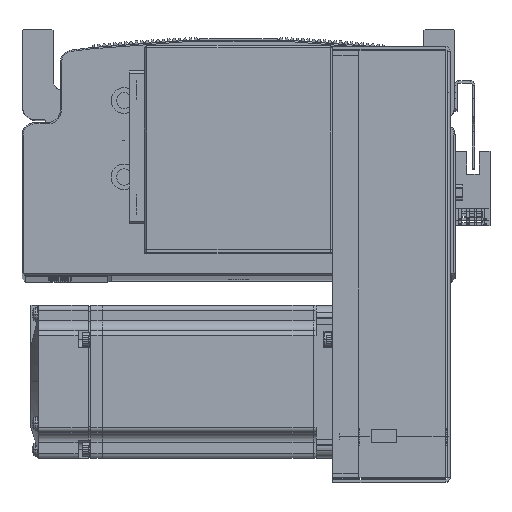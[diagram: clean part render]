
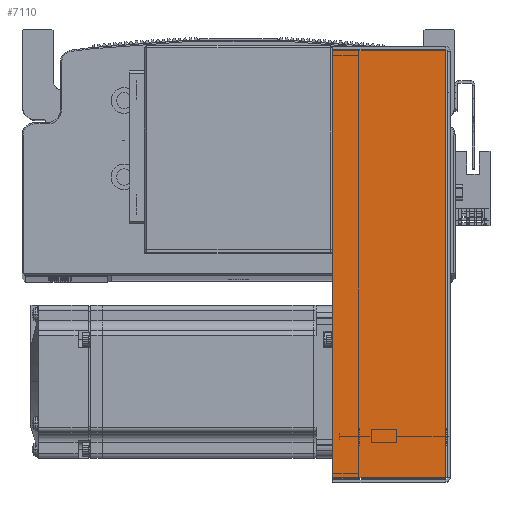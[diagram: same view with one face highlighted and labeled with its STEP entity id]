
A CAD part, top view. The second image highlights one B-rep face of the part: STEP entity #7110.
In plain terms, the highlighted planar face has unit normal (0, 0, 1) as drawn and (0, 0, -1) by its records, which use the part's own axes.
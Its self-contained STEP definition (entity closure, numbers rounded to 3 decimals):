
#7110 = ADVANCED_FACE ( 'NONE', ( #44558 ), #76834, .F. ) ;
#7410 = VECTOR ( 'NONE', #33957, 1000. ) ;
#7413 = LINE ( 'NONE', #33981, #7417 ) ;
#7417 = VECTOR ( 'NONE', #34099, 1000. ) ;
#7487 = LINE ( 'NONE', #33885, #7410 ) ;
#7575 = LINE ( 'NONE', #34128, #7600 ) ;
#7578 = VECTOR ( 'NONE', #34158, 1000. ) ;
#7581 = LINE ( 'NONE', #34251, #7578 ) ;
#7600 = VECTOR ( 'NONE', #34037, 1000. ) ;
#17605 = AXIS2_PLACEMENT_3D ( 'NONE', #76835, #76806, #76809 ) ;
#33369 = CARTESIAN_POINT ( 'NONE',  ( 83.793, 0.737, -40.5 ) ) ;
#33665 = CARTESIAN_POINT ( 'NONE',  ( 83.793, 45., -40.5 ) ) ;
#33707 = CARTESIAN_POINT ( 'NONE',  ( -83.793, 0.737, -40.5 ) ) ;
#33729 = CARTESIAN_POINT ( 'NONE',  ( -83.793, 45., -40.5 ) ) ;
#33885 = CARTESIAN_POINT ( 'NONE',  ( 84.5, 45., -40.5 ) ) ;
#33957 = DIRECTION ( 'NONE',  ( 1., 0., 0. ) ) ;
#33981 = CARTESIAN_POINT ( 'NONE',  ( -83.793, 0., -40.5 ) ) ;
#34037 = DIRECTION ( 'NONE',  ( 1., 0., 0. ) ) ;
#34099 = DIRECTION ( 'NONE',  ( 0., 1., 0. ) ) ;
#34128 = CARTESIAN_POINT ( 'NONE',  ( 0., 0.737, -40.5 ) ) ;
#34158 = DIRECTION ( 'NONE',  ( 0., 1., 0. ) ) ;
#34251 = CARTESIAN_POINT ( 'NONE',  ( 83.793, 0., -40.5 ) ) ;
#44558 = FACE_OUTER_BOUND ( 'NONE', #57078, .T. ) ;
#53482 = VERTEX_POINT ( 'NONE', #33369 ) ;
#53590 = VERTEX_POINT ( 'NONE', #33665 ) ;
#53629 = VERTEX_POINT ( 'NONE', #33707 ) ;
#53645 = VERTEX_POINT ( 'NONE', #33729 ) ;
#55012 = EDGE_CURVE ( 'NONE', #53645, #53590, #7487, .T. ) ;
#55017 = EDGE_CURVE ( 'NONE', #53629, #53645, #7413, .T. ) ;
#55030 = EDGE_CURVE ( 'NONE', #53629, #53482, #7575, .T. ) ;
#55053 = EDGE_CURVE ( 'NONE', #53482, #53590, #7581, .T. ) ;
#57078 = EDGE_LOOP ( 'NONE', ( #61888, #61862, #61899, #61853 ) ) ;
#61853 = ORIENTED_EDGE ( 'NONE', *, *, #55053, .F. ) ;
#61862 = ORIENTED_EDGE ( 'NONE', *, *, #55017, .T. ) ;
#61888 = ORIENTED_EDGE ( 'NONE', *, *, #55030, .F. ) ;
#61899 = ORIENTED_EDGE ( 'NONE', *, *, #55012, .T. ) ;
#76806 = DIRECTION ( 'NONE',  ( 0., 0., 1. ) ) ;
#76809 = DIRECTION ( 'NONE',  ( 0., -1., 0. ) ) ;
#76834 = PLANE ( 'NONE',  #17605 ) ;
#76835 = CARTESIAN_POINT ( 'NONE',  ( 0., 0., -40.5 ) ) ;
